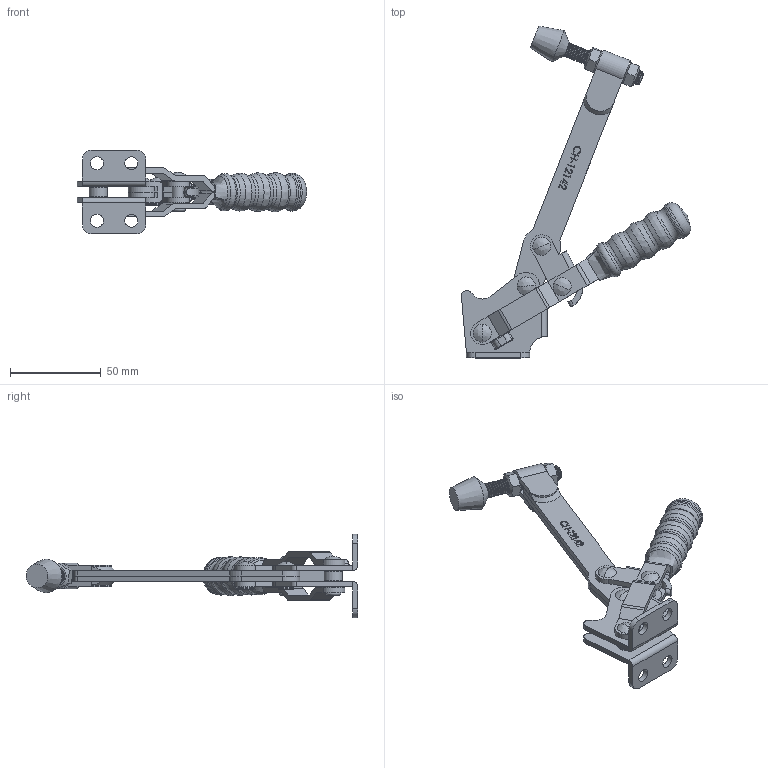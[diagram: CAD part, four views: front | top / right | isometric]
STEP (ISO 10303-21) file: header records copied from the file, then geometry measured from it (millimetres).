
FILE_DESCRIPTION(/* description */ ('STEP AP203'),/* implementation_level */ '2;1');
FILE_NAME(/* name */ 'D:\Vault_2016\Projekty\NASZ KATALOG\CLAMPTEK\STRONA\Vertical toggle clamp\CH-12142\CH-12142_OTWARTY.stp',/* time_stamp */ '2019-01-18T12:27:06+01:00',/* author */ ('CADENGINEERING4'),/* organization */ ('Î¢ÈíÖÐ¹ú'),/* preprocessor_version */ 'ST-DEVELOPER v17.2',/* originating_system */ 'Autodesk Inventor 2019',/* authorisation */ '');
FILE_SCHEMA (('AUTOMOTIVE_DESIGN { 1 0 10303 214 3 1 1 }'));
Products named in the file (11): CH-12142_OTWARTY; CH-12130-01 FLANGED BASE; CH-12130-07; CH-FC-56212 SPINDLE SUPPLIED; CH-12130-04 CONNECTING-PLATE; CH-12142-02 LONG SOLID BAR_Ä¬ÈÏ_°´
¼Ó¹¤_; CH-12130-03 STRAIGHT HANDLE; CH-12130-06; CH-FC-56212 Nut; CH-12130-05; CH-12130-08
Assembly tree (13 placements, depth 2):
  CH-12142_OTWARTY
    CH-12130-01 FLANGED BASE
    CH-12130-06  x2
    CH-12130-07
    CH-FC-56212 Nut  x2
    CH-FC-56212 SPINDLE SUPPLIED
    CH-12130-08  x2
    CH-12130-04 CONNECTING-PLATE
    CH-12142-02 LONG SOLID BAR_Ä¬ÈÏ_°´
¼Ó¹¤_
    CH-12130-03 STRAIGHT HANDLE
    CH-12130-05
Bounding box: 126.6 x 183.28 x 46 mm (x, y, z)
Volume: 63660 mm3; surface area: 48307.7 mm2
Topology: 19 solids, 19 shells, 688 faces, 1915 edges, 1288 vertices
Faces by surface type: plane 305, bspline 176, cylinder 150, cone 32, torus 25
Full cylindrical faces by diameter (mm): 1.55 x1, 1.744 x1, 3.9 x2, 6.3 x6, 6.4 x20, 6.8 x1, 7.2 x4, 7.92 x32, 8.4 x2, 10 x1, 20.847 x1
Entity records: 45486 total; most frequent: CARTESIAN_POINT 29345, ORIENTED_EDGE 3600, DIRECTION 2725, EDGE_CURVE 1800, VERTEX_POINT 1216, LINE 979, VECTOR 979, AXIS2_PLACEMENT_3D 873
